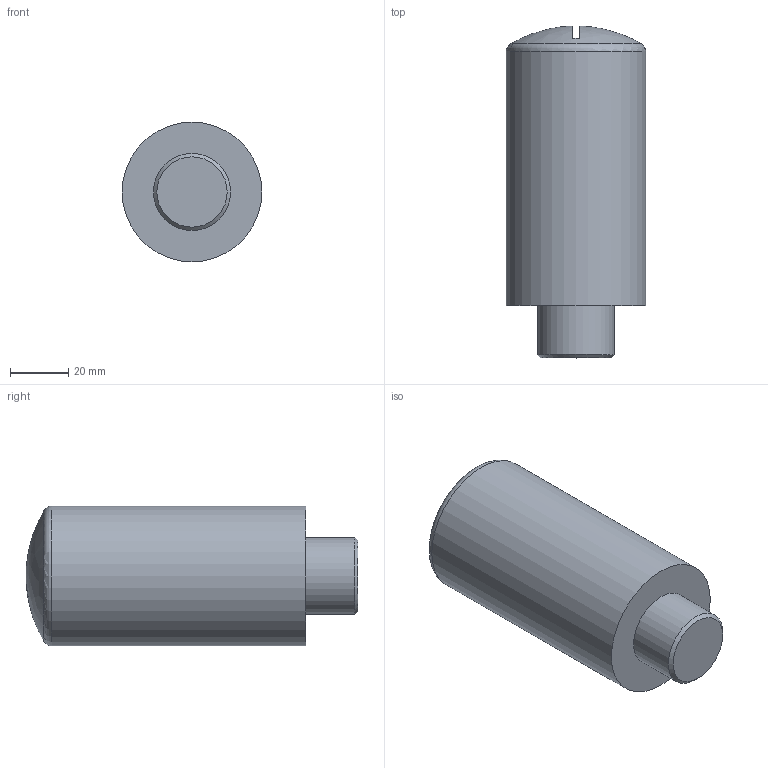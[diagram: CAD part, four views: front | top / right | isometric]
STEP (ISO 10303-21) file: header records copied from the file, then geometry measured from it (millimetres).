
FILE_DESCRIPTION( ( 'STEP AP214' ), '1' );
FILE_NAME( 'p:/temp/worker_4/temp/exporttempdir_4796_651_t4Dnt/format_0/W0970530066.stp', '2021-12-09T08:34:26', ( 'License CC BY-ND 4.0' ), ( 'CADENAS' ), ' ', 'PARTsolutions', ' ' );
FILE_SCHEMA( ( 'AUTOMOTIVE_DESIGN { 1 0 10303 214 1 1 1 1 }' ) );
Length unit declared in the file: millimetre
Products named in the file (1): _W0970530066
Bounding box: 48 x 113.97 x 48 mm (x, y, z)
Volume: 176870.7 mm3; surface area: 18780.9 mm2
Topology: 1 solids, 1 shells, 10 faces, 18 edges, 11 vertices
Faces by surface type: plane 5, cylinder 2, cone 1, torus 1, bspline 1
Full cylindrical faces by diameter (mm): 26.441 x1, 48 x1
Entity records: 369 total; most frequent: CARTESIAN_POINT 102, DIRECTION 38, ORIENTED_EDGE 24, AXIS2_PLACEMENT_3D 18, EDGE_LOOP 16, FACE_OUTER_BOUND 14, EDGE_CURVE 12, STYLED_ITEM 10
